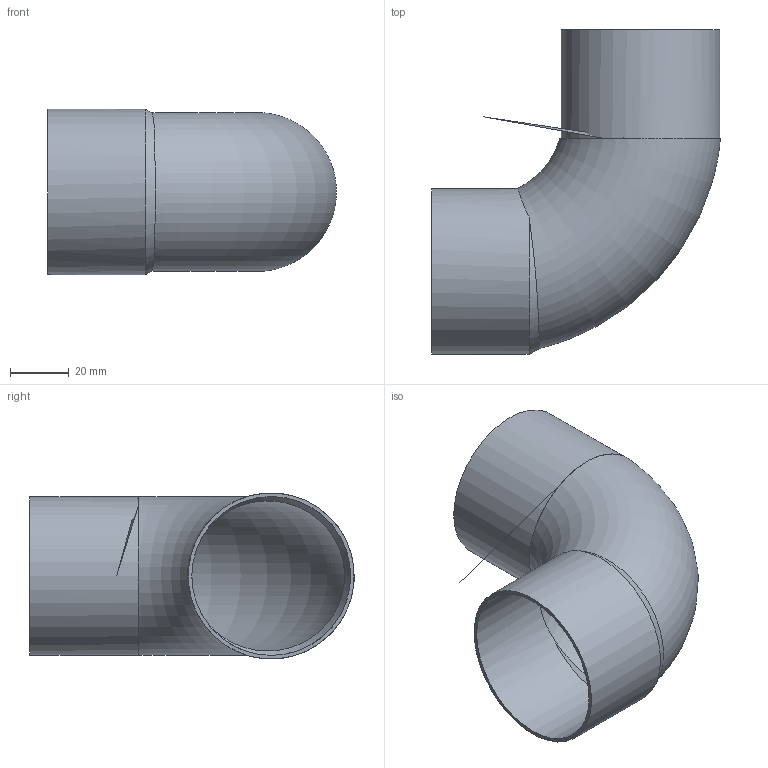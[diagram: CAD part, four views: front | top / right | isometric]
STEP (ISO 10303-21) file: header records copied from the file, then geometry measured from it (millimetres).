
FILE_DESCRIPTION((''),'2;1');
FILE_NAME('G:\SANHA-Ternat\Technik\Management\Bouwmaten + markeringen\z-maattekeningen 3D\5000\5092\1509254(0).stp','2018-02-20T09:43:43',('vdvijverd'),(''),'Autodesk Inventor 2009','Autodesk Inventor 2009','');
FILE_SCHEMA(('AUTOMOTIVE_DESIGN { 1 0 10303 214 1 1 1 1 }'));
Length unit declared in the file: millimetre
Products named in the file (1): 1509254(0)
Bounding box: 98.17 x 110.14 x 56.36 mm (x, y, z)
Volume: 30036.5 mm3; surface area: 44561.8 mm2
Topology: 1 solids, 1 shells, 14 faces, 32 edges, 20 vertices
Faces by surface type: plane 6, cylinder 4, torus 2, cone 2
Full cylindrical faces by diameter (mm): 51.5 x1, 54 x2, 56.4 x1
Entity records: 821 total; most frequent: CARTESIAN_POINT 544, DIRECTION 54, ORIENTED_EDGE 40, AXIS2_PLACEMENT_3D 27, EDGE_LOOP 22, EDGE_CURVE 20, VERTEX_POINT 14, FACE_OUTER_BOUND 14
